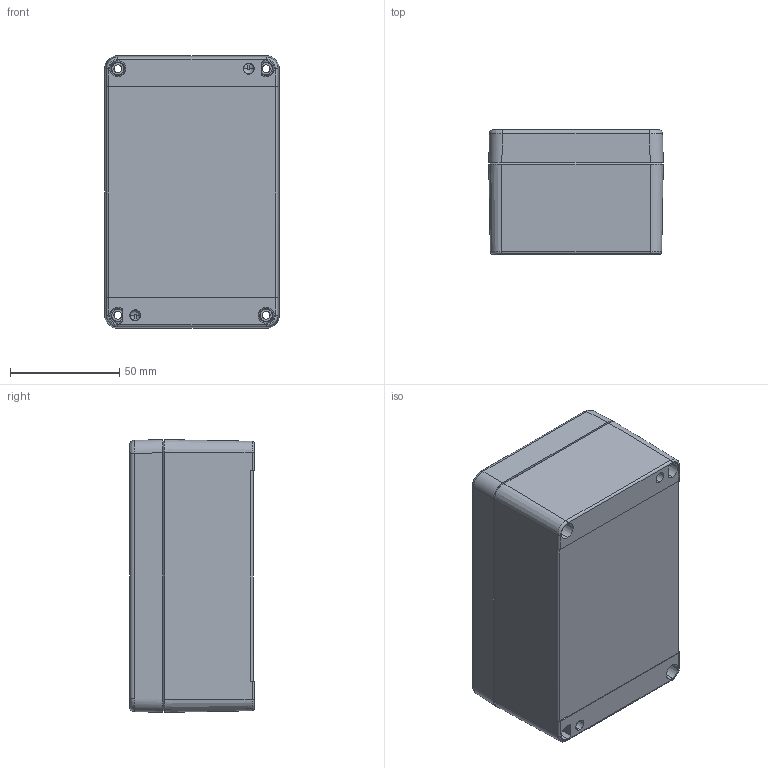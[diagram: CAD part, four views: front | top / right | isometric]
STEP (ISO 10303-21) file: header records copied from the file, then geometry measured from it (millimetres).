
FILE_DESCRIPTION (( 'STEP AP203' ), '1' );
FILE_NAME ('BB032.STEP', '2024-12-26T16:24:58', ( '' ), ( '' ), 'SwSTEP 2.0', 'SolidWorks 2019', '' );
FILE_SCHEMA (( 'CONFIG_CONTROL_DESIGN' ));
Length unit declared in the file: millimetre
Products named in the file (3): LID_125_80_57; BB032; BASE_125_80_57
Assembly tree (2 placements, depth 2):
  BB032
    BASE_125_80_57
    LID_125_80_57
Bounding box: 80 x 57 x 125 mm (x, y, z)
Volume: 155104.8 mm3; surface area: 88154 mm2
Topology: 2 solids, 2 shells, 495 faces, 1181 edges, 722 vertices
Faces by surface type: cone 168, plane 129, cylinder 108, torus 62, bspline 28
Entity records: 16907 total; most frequent: CARTESIAN_POINT 5270, DIRECTION 2422, ORIENTED_EDGE 2354, EDGE_CURVE 1177, AXIS2_PLACEMENT_3D 967, VERTEX_POINT 722, EDGE_LOOP 551, FACE_OUTER_BOUND 495
